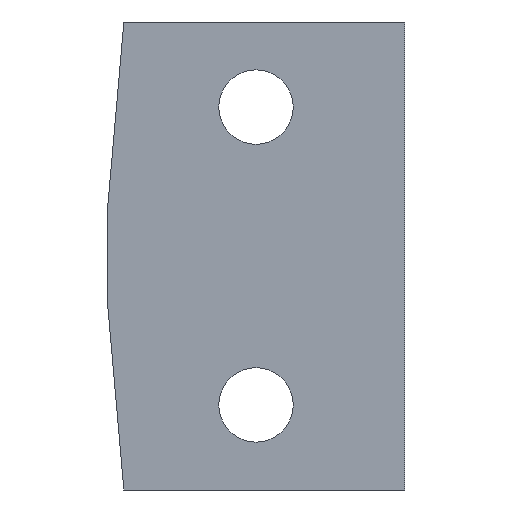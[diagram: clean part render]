
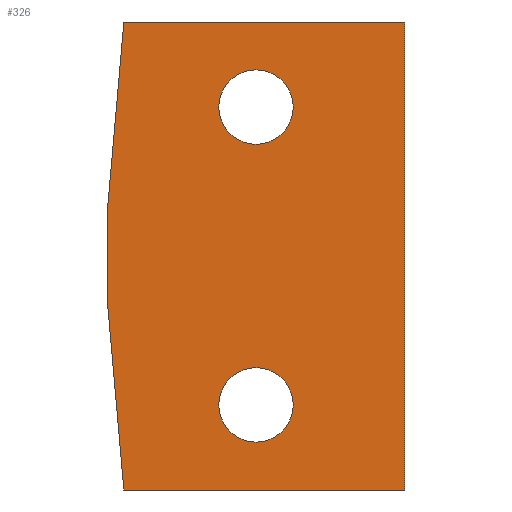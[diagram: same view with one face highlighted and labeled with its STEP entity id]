
A CAD part, front view. The second image highlights one B-rep face of the part: STEP entity #326.
In plain terms, the highlighted planar face has unit normal (0, -1, 0).
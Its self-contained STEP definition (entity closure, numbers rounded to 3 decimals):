
#17=LINE('',#492,#47);
#21=LINE('',#500,#51);
#24=LINE('',#506,#54);
#25=LINE('',#508,#55);
#26=LINE('',#510,#56);
#27=LINE('',#511,#57);
#47=VECTOR('',#406,9.034);
#51=VECTOR('',#412,4.);
#54=VECTOR('',#417,13.213);
#55=VECTOR('',#418,22.);
#56=VECTOR('',#419,13.213);
#57=VECTOR('',#420,9.034);
#77=PLANE('',#357);
#99=FACE_BOUND('',#140,.T.);
#100=FACE_BOUND('',#141,.T.);
#113=FACE_OUTER_BOUND('',#139,.T.);
#139=EDGE_LOOP('',(#259,#260,#261,#262,#263,#264));
#140=EDGE_LOOP('',(#265));
#141=EDGE_LOOP('',(#266));
#159=CIRCLE('',#345,1.75);
#161=CIRCLE('',#348,1.75);
#169=VERTEX_POINT('',#468);
#171=VERTEX_POINT('',#473);
#178=VERTEX_POINT('',#489);
#179=VERTEX_POINT('',#491);
#182=VERTEX_POINT('',#499);
#184=VERTEX_POINT('',#505);
#185=VERTEX_POINT('',#507);
#186=VERTEX_POINT('',#509);
#199=EDGE_CURVE('',#169,#169,#159,.T.);
#201=EDGE_CURVE('',#171,#171,#161,.T.);
#208=EDGE_CURVE('',#179,#178,#17,.T.);
#212=EDGE_CURVE('',#179,#182,#21,.T.);
#215=EDGE_CURVE('',#184,#178,#24,.T.);
#216=EDGE_CURVE('',#185,#184,#25,.T.);
#217=EDGE_CURVE('',#186,#185,#26,.T.);
#218=EDGE_CURVE('',#186,#182,#27,.T.);
#259=ORIENTED_EDGE('',*,*,#208,.T.);
#260=ORIENTED_EDGE('',*,*,#215,.F.);
#261=ORIENTED_EDGE('',*,*,#216,.F.);
#262=ORIENTED_EDGE('',*,*,#217,.F.);
#263=ORIENTED_EDGE('',*,*,#218,.T.);
#264=ORIENTED_EDGE('',*,*,#212,.F.);
#265=ORIENTED_EDGE('',*,*,#199,.T.);
#266=ORIENTED_EDGE('',*,*,#201,.T.);
#326=ADVANCED_FACE('',(#113,#99,#100),#77,.F.);
#345=AXIS2_PLACEMENT_3D('',#469,#382,#383);
#348=AXIS2_PLACEMENT_3D('',#474,#388,#389);
#357=AXIS2_PLACEMENT_3D('',#504,#415,#416);
#382=DIRECTION('center_axis',(0.,1.,0.));
#383=DIRECTION('ref_axis',(1.,0.,0.));
#388=DIRECTION('center_axis',(0.,1.,0.));
#389=DIRECTION('ref_axis',(1.,0.,0.));
#406=DIRECTION('',(0.087,0.,-0.996));
#412=DIRECTION('',(0.,0.,1.));
#415=DIRECTION('center_axis',(0.,1.,0.));
#416=DIRECTION('ref_axis',(0.,0.,1.));
#417=DIRECTION('',(-1.,0.,0.));
#418=DIRECTION('',(0.,0.,-1.));
#419=DIRECTION('',(1.,0.,0.));
#420=DIRECTION('',(-0.087,0.,-0.996));
#468=CARTESIAN_POINT('',(-1.75,0.,-7.));
#469=CARTESIAN_POINT('Origin',(0.,0.,-7.));
#473=CARTESIAN_POINT('',(-1.75,0.,7.));
#474=CARTESIAN_POINT('Origin',(0.,0.,7.));
#489=CARTESIAN_POINT('',(-6.213,0.,-11.));
#491=CARTESIAN_POINT('',(-7.,0.,-2.));
#492=CARTESIAN_POINT('',(-6.962,0.,-2.435));
#499=CARTESIAN_POINT('',(-7.,0.,2.));
#500=CARTESIAN_POINT('',(-7.,0.,-11.));
#504=CARTESIAN_POINT('Origin',(-2.481,0.,-2.481));
#505=CARTESIAN_POINT('',(7.,0.,-11.));
#506=CARTESIAN_POINT('',(7.,0.,-11.));
#507=CARTESIAN_POINT('',(7.,0.,11.));
#508=CARTESIAN_POINT('',(7.,0.,11.));
#509=CARTESIAN_POINT('',(-6.213,0.,11.));
#510=CARTESIAN_POINT('',(-7.,0.,11.));
#511=CARTESIAN_POINT('',(-7.177,0.,-0.027));
